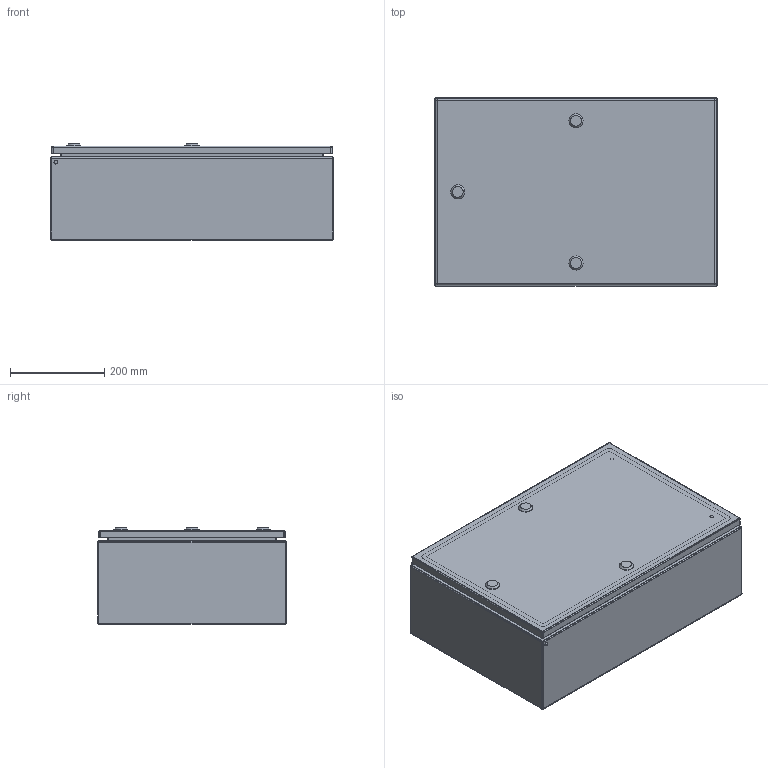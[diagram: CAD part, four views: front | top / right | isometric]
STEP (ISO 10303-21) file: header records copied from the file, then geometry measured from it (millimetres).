
FILE_DESCRIPTION (( 'STEP AP203' ), '1' );
FILE_NAME ('EC060420EE.STEP', '2023-08-31T11:51:38', ( '' ), ( '' ), 'SwSTEP 2.0', 'SolidWorks 2022', '' );
FILE_SCHEMA (( 'CONFIG_CONTROL_DESIGN' ));
Length unit declared in the file: millimetre
Products named in the file (6): AR_ECOR_X_Piastra_14; AR_EC_EE_involucro_0600x0400x0200; AR_EC_EE_montaggio_porta_singola_0600x0400; EC060420EE; AR_EC_EE_porta_singola_0600x0400; AR_EC_EE_chiusura_std_STD
Assembly tree (7 placements, depth 3):
  EC060420EE
    AR_EC_EE_involucro_0600x0400x0200
    AR_ECOR_X_Piastra_14
    AR_EC_EE_montaggio_porta_singola_0600x0400
      AR_EC_EE_porta_singola_0600x0400
      AR_EC_EE_chiusura_std_STD  x3
Bounding box: 600 x 400 x 205 mm (x, y, z)
Volume: 1932328.1 mm3; surface area: 2264199.6 mm2
Topology: 6 solids, 6 shells, 294 faces, 677 edges, 400 vertices
Faces by surface type: cylinder 140, plane 117, sphere 20, torus 7, cone 6, bspline 4
Full cylindrical faces by diameter (mm): 4.5 x8, 5.5 x2, 6 x3, 7 x4, 8 x7, 8.2 x5, 9.5 x4, 10 x8, 14 x4, 30 x3
Entity records: 8178 total; most frequent: CARTESIAN_POINT 1623, DIRECTION 1291, ORIENTED_EDGE 1070, EDGE_CURVE 535, AXIS2_PLACEMENT_3D 510, EDGE_LOOP 400, VERTEX_POINT 355, FACE_OUTER_BOUND 315
